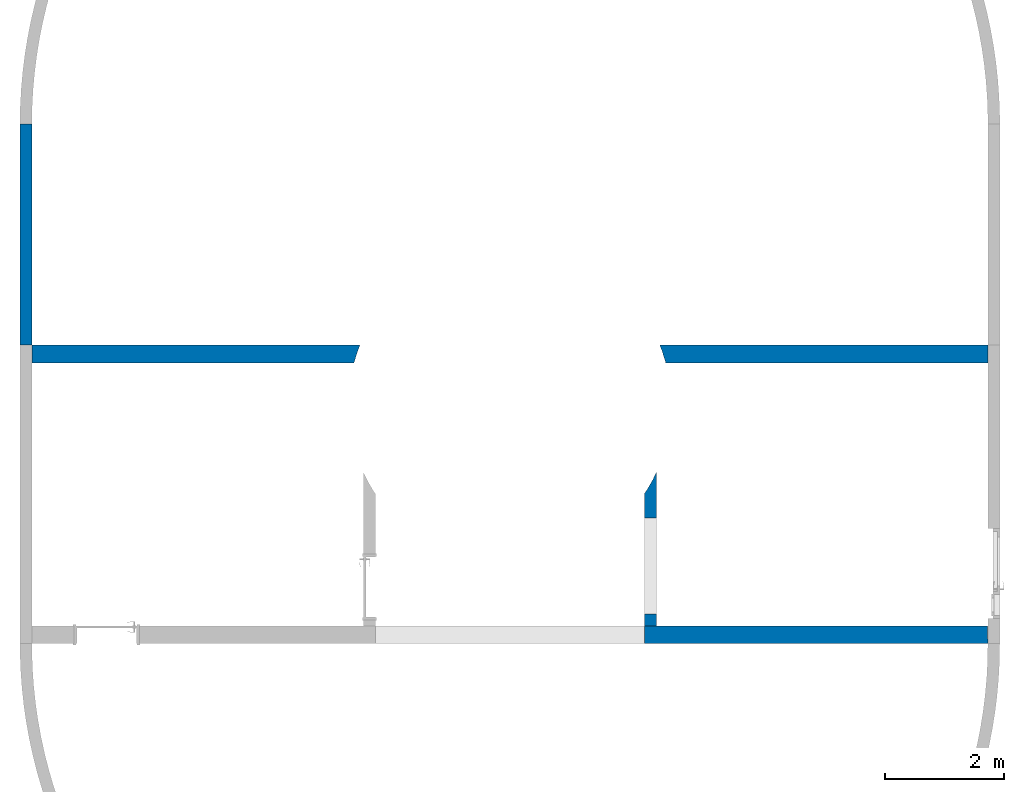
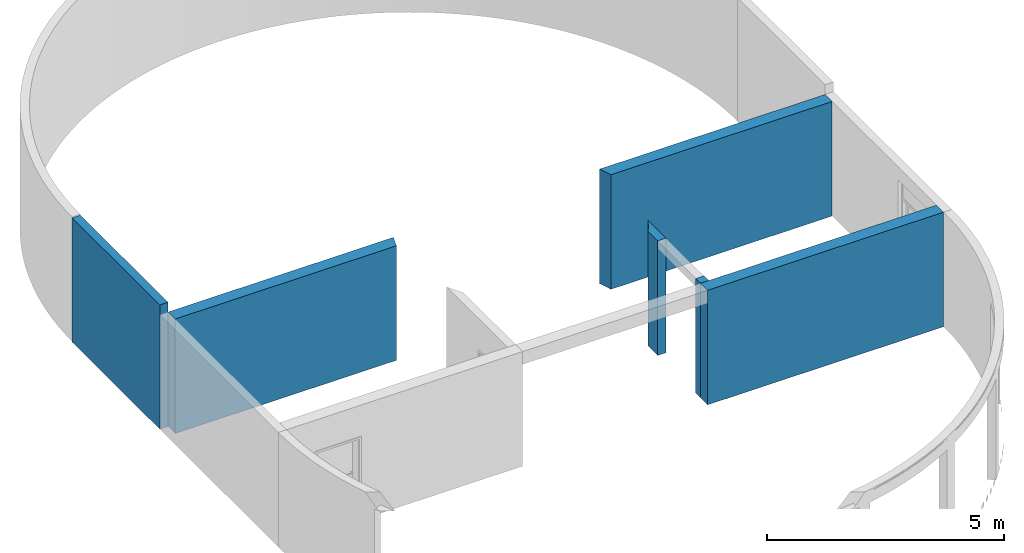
# One storey, part 4 of 6: 6 walls.
"""IFC4 building model written with IfcOpenShell, lengths in millimetres."""

from ifc_helpers import new_model, entity, si_unit, converted_unit, derived_unit, direction, frame, origin_with_axes, place, context, subcontext, project, spatial, polygons, material, constituent, constituent_set, type_object, element, save


model = new_model("IFC4")

# Units and contexts
model_context = context("Model", 3, precision=0.01, world=origin_with_axes(), true_north=direction((0.0, 1.0)))
body_context = subcontext(model_context, "Body", "Model", "MODEL_VIEW")
ifc_project = project(units=[si_unit("LENGTHUNIT", "METRE", prefix="MILLI"), si_unit("AREAUNIT", "SQUARE_METRE"), si_unit("VOLUMEUNIT", "CUBIC_METRE"), converted_unit("PLANEANGLEUNIT", "DEGREE", entity("IfcPlaneAngleMeasure", 0.0174532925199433), si_unit("PLANEANGLEUNIT", "RADIAN"), dimensions=[0, 0, 0, 0, 0, 0, 0]), converted_unit("TIMEUNIT", "Year", entity("IfcTimeMeasure", 31557600.0), si_unit("TIMEUNIT", "SECOND"), dimensions=[0, 0, 1, 0, 0, 0, 0]), si_unit("MASSUNIT", "GRAM", prefix="KILO"), si_unit("THERMODYNAMICTEMPERATUREUNIT", "DEGREE_CELSIUS"), si_unit("LUMINOUSINTENSITYUNIT", "LUMEN"), si_unit("ENERGYUNIT", "JOULE", prefix="MEGA"), derived_unit("THERMALCONDUCTANCEUNIT", [(si_unit("POWERUNIT", "WATT"), 1), (si_unit("LENGTHUNIT", "METRE"), -1), (si_unit("THERMODYNAMICTEMPERATUREUNIT", "KELVIN"), -1)]), derived_unit("SPECIFICHEATCAPACITYUNIT", [(si_unit("ENERGYUNIT", "JOULE"), 1), (si_unit("MASSUNIT", "GRAM", prefix="KILO"), -1), (si_unit("THERMODYNAMICTEMPERATUREUNIT", "KELVIN"), -1)]), derived_unit("MASSDENSITYUNIT", [(si_unit("MASSUNIT", "GRAM", prefix="KILO"), 1), (si_unit("VOLUMEUNIT", "CUBIC_METRE"), -1)])], contexts=[model_context])

# Site, building, storey
site_placement = place(None, origin_with_axes())
site = spatial("IfcSite", under=ifc_project, at=site_placement, Name="Exteriér", CompositionType="ELEMENT")
building_placement = place(site_placement, origin_with_axes())
building = spatial("IfcBuilding", under=site, at=building_placement, Name="Univerzitní lezecké centrum", CompositionType="ELEMENT")
storey_placement = place(building_placement, origin_with_axes())
storey = spatial("IfcBuildingStorey", under=building, at=storey_placement, Name="1.NP", CompositionType="ELEMENT", Elevation=0.0)

# Walls
ifc_material_1 = material(Name="Beton vyztužený - vnější svislé kce")
ifc_constituent_1 = constituent(ifc_material_1, Name="Beton vyztužený - vnější svislé kce")
ifc_constituent_set_1 = constituent_set(constituents=[ifc_constituent_1], Name="!Vnější betonová stěna 200 mm")
wall_type_1 = type_object("IfcWallType", Name="!Vnější betonová stěna 200 mm 200", PredefinedType="NOTDEFINED")
wall_1_placement = place(storey_placement, frame((-5550.148351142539, 8400.000000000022, -120.0), z_axis=(0.0, 0.0, 1.0), x_axis=(0.0, -1.0, 0.0)))
element("IfcWall", 1, at=wall_1_placement, inside=storey, type_object=wall_type_1, material=ifc_constituent_set_1, Name="St01", PredefinedType="NOTDEFINED", context=body_context, shape_type="Tessellation", body=[
    polygons([(3700.000000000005, -200.0000000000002, 2950.0), (3700.000000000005, 0.0, 2950.0), (3700.000000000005, 0.0, 3200.0), (3700.000000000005, -200.0000000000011, 3200.0), (3700.000000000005, 0.0, 0.0), (3700.000000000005, -200.0000000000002, 0.0), (0.0, 0.0, 0.0), (0.0, 0.0, 3200.0), (0.0, -200.0000000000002, 3200.0), (0.0, -200.0000000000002, 0.0)], [[[1, 2, 3, 4]], [[5, 2, 1, 6]], [[2, 5, 7, 8, 3]], [[9, 4, 3, 8]], [[6, 1, 4, 9, 10]], [[5, 6, 10, 7]], [[9, 8, 7, 10]]], closed=True),
])
ifc_material_2 = material(Name="Beton vyztužený - vnitřní svislé kce")
ifc_constituent_2 = constituent(ifc_material_2, Name="Beton vyztužený - vnitřní svislé kce")
ifc_constituent_set_2 = constituent_set(constituents=[ifc_constituent_2], Name="!Vnitřní betonová stěna 300 mm")
wall_type_2 = type_object("IfcWallType", Name="!Vnitřní betonová stěna 300 mm 300", PredefinedType="NOTDEFINED")
wall_2_placement = place(storey_placement, frame((-5550.14835114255, 4700.000000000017, -120.000000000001), z_axis=(0.0, 0.0, 1.0), x_axis=(1.0, 0.0, 0.0)))
element("IfcWall", 2, at=wall_2_placement, inside=storey, type_object=wall_type_2, material=ifc_constituent_set_2, Name="St04", PredefinedType="NOTDEFINED", context=body_context, shape_type="Tessellation", body=[
    polygons([(5396.315327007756, -280.1582932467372, 2950.000000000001), (5447.212569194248, -116.4716799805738, 2950.000000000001), (5491.70995505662, 0.0, 2950.000000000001), (0.0, 0.0, 2950.000000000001), (0.0, -299.9999999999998, 2950.000000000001), (5391.501781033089, -300.0000000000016, 2950.000000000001), (5396.315327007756, -280.1582932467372, 0.0), (5447.212569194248, -116.4716799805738, 0.0), (5491.709955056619, 0.0, 0.0), (0.0, 0.0, 0.0), (0.0, -299.9999999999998, 0.0), (5391.501781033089, -300.0000000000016, 0.0)], [[[1, 2, 3, 4, 5, 6]], [[2, 1, 7, 8]], [[9, 3, 2, 8]], [[3, 9, 10, 4]], [[5, 4, 10, 11]], [[12, 6, 5, 11]], [[1, 6, 12, 7]], [[7, 12, 11, 10, 9, 8]]], closed=True),
])
ifc_constituent_3 = constituent(ifc_material_2, Name="Beton vyztužený - vnitřní svislé kce")
ifc_constituent_set_3 = constituent_set(constituents=[ifc_constituent_3], Name="!Vnitřní betonová stěna 300 mm")
wall_3_placement = place(storey_placement, frame((4741.139496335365, 4699.999999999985, -120.000000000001), z_axis=(0.0, 0.0, 1.0), x_axis=(1.0, 0.0, 0.0)))
element("IfcWall", 3, at=wall_3_placement, inside=storey, type_object=wall_type_2, material=ifc_constituent_set_3, Name="St04", PredefinedType="NOTDEFINED", context=body_context, shape_type="Tessellation", body=[
    polygons([(253.2661307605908, -93.03196804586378, 2950.000000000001), (305.6665879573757, -256.2435752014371, 2950.000000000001), (316.7088482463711, -299.9999999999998, 2950.000000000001), (5708.712152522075, -299.9999999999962, 2950.000000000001), (5708.712152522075, 0.0, 2950.000000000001), (216.7398023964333, 0.0, 2950.000000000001), (253.2661307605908, -93.03196804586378, 0.0), (305.6665879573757, -256.2435752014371, 0.0), (316.708848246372, -299.9999999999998, 0.0), (5708.712152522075, -299.9999999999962, 0.0), (5708.712152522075, 0.0, 0.0), (216.7398023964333, 0.0, 0.0)], [[[1, 2, 3, 4, 5, 6]], [[2, 1, 7, 8]], [[9, 3, 2, 8]], [[3, 9, 10, 4]], [[5, 4, 10, 11]], [[12, 6, 5, 11]], [[1, 6, 12, 7]], [[7, 12, 11, 10, 9, 8]]], closed=True),
])
ifc_constituent_4 = constituent(ifc_material_2, Name="Beton vyztužený - vnitřní svislé kce")
ifc_constituent_set_4 = constituent_set(constituents=[ifc_constituent_4], Name="!Vnitřní betonová stěna 300 mm")
wall_4_placement = place(storey_placement, frame((10449.85164885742, -300.0000000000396, -120.000000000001), z_axis=(0.0, 0.0, 1.0), x_axis=(-1.0, 0.0, 0.0)))
element("IfcWall", 4, at=wall_4_placement, inside=storey, type_object=wall_type_2, material=ifc_constituent_set_4, Name="St04", PredefinedType="NOTDEFINED", context=body_context, shape_type="Tessellation", body=[
    polygons([(0.0, 0.0, 0.0), (0.0, 0.0, 2950.000000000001), (5749.758061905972, 0.0, 2950.0), (5749.758061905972, 0.0, 0.0), (3.780704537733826, -283.9840451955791, 2950.000000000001), (3.780704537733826, -283.9840451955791, 0.0), (4.634331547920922, -299.9999999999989, 2950.0), (5749.811507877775, -300.0000000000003, 2950.0), (5749.811507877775, -300.0000000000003, 0.0), (4.634331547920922, -299.9999999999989, 0.0)], [[[1, 2, 3, 4]], [[5, 2, 1, 6]], [[5, 7, 8, 3, 2]], [[9, 4, 3, 8]], [[6, 1, 4, 9, 10]], [[7, 5, 6, 10]], [[7, 10, 9, 8]]], closed=True),
])
ifc_constituent_5 = constituent(ifc_material_2, Name="Beton vyztužený - vnitřní svislé kce")
ifc_constituent_set_5 = constituent_set(constituents=[ifc_constituent_5], Name="!Vnitřní betonová stěna 200 mm")
wall_type_3 = type_object("IfcWallType", Name="!Vnitřní betonová stěna 200 mm 200", PredefinedType="NOTDEFINED")
wall_5_placement = place(storey_placement, frame((4700.040140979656, 1800.480756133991, -120.000000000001), z_axis=(0.0, 0.0, 1.0), x_axis=(-0.0001098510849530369, 0.9999999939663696, 0.0)))
element("IfcWall", 5, at=wall_5_placement, inside=storey, type_object=wall_type_3, material=ifc_constituent_set_5, Name="St05", PredefinedType="NOTDEFINED", context=body_context, shape_type="Tessellation", body=[
    polygons([(764.1149082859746, -199.9999999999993, 0.0), (764.114908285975, -199.9999999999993, 2950.000000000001), (0.0, -199.9999999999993, 2950.000000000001), (0.0, -199.9999999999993, 0.0), (722.8186918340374, -179.9983851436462, 2950.000000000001), (722.8186918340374, -179.9983851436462, 0.0), (496.4573826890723, -58.2813733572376, 2950.000000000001), (407.1075469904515, -6.705529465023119e-06, 2950.000000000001), (0.0, 0.0, 2950.000000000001), (645.6816698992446, -142.6374563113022, 2950.000000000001), (0.0, 0.0, 0.0), (407.1075469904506, -6.705529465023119e-06, 0.0), (496.4573826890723, -58.2813733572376, 0.0), (645.6816698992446, -142.6374563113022, 0.0)], [[[1, 2, 3, 4]], [[5, 2, 1, 6]], [[7, 8, 9, 3, 2, 5, 10]], [[3, 9, 11, 4]], [[6, 1, 4, 11, 12, 13, 14]], [[10, 5, 6, 14]], [[8, 7, 13, 12]], [[8, 12, 11, 9]], [[7, 10, 14, 13]]], closed=True),
])
ifc_constituent_6 = constituent(ifc_material_2, Name="Beton vyztužený - vnitřní svislé kce")
ifc_constituent_set_6 = constituent_set(constituents=[ifc_constituent_6], Name="!Vnitřní betonová stěna 200 mm")
wall_6_placement = place(storey_placement, frame((4700.093586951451, -300.0000000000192, -120.000000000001), z_axis=(0.0, 0.0, 1.0), x_axis=(-0.0001781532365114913, 0.9999999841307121, 0.0)))
element("IfcWall", 6, at=wall_6_placement, inside=storey, type_object=wall_type_3, material=ifc_constituent_set_6, Name="St05", PredefinedType="NOTDEFINED", context=body_context, shape_type="Tessellation", body=[
    polygons([(500.0, 0.0, 0.0), (500.0, -200.0000000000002, 0.0), (299.9643741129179, -200.0000000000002, 0.0), (300.0000047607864, 0.0, 0.0), (500.0, 0.0, 2950.000000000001), (500.0, -200.0000000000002, 2950.000000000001), (299.9643741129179, -200.0000000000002, 2950.000000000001), (300.0000047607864, 0.0, 2950.000000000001)], [[[1, 2, 3, 4]], [[1, 5, 6, 2]], [[2, 6, 7, 3]], [[4, 3, 7, 8]], [[5, 1, 4, 8]], [[6, 5, 8, 7]]], closed=True),
])

save(model, "model.ifc")
